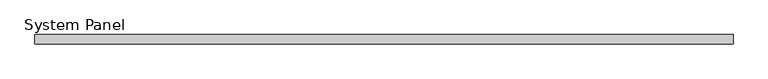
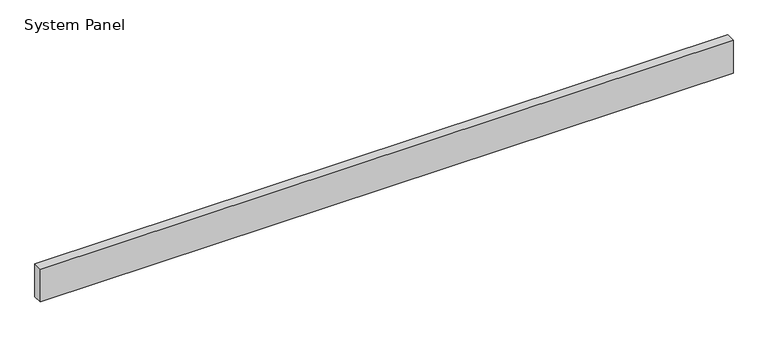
"""IFC4 building model written with IfcOpenShell, lengths in millimetres: plate geometry, System Panel : Inspire 80mm Horizontal - Plain RHEA-PIR."""

from ifc_helpers import new_model, si_unit, origin, origin_with_axes, place, context, project, spatial, polyline, outline, extrude, source, transform, mapped, element, save


def system_panel_b5fc7392(model_context):
    return source(origin(), model_context, "Body", "SweptSolid", [
        extrude(outline(polyline([(2995.0, 0.0), (-2995.0, 0.0), (-2995.0, 80.0), (2995.0, 80.0), (2995.0, 0.0)])), origin_with_axes(), (0.0, 0.0, 1.0), 300.0),
    ])


if __name__ == "__main__":
    model = new_model("IFC4")
    model_context = context("Model", 3, world=origin())
    ifc_project = project(units=[si_unit("LENGTHUNIT", "METRE", prefix="MILLI")], contexts=[model_context])
    site = spatial("IfcSite", under=ifc_project)
    building = spatial("IfcBuilding", under=site)
    placement = place(None, origin())
    system_panel_shape = system_panel_b5fc7392(model_context)
    element("IfcPlate", 1, ObjectType="System Panel : Inspire 80mm Horizontal - Plain RHEA-PIR", at=placement, inside=building, context=model_context, shape_type="MappedRepresentation", body=[
        mapped(system_panel_shape, transform((0.0, 0.0, 0.0), x_axis=(1.0, 0.0, 0.0), y_axis=(0.0, 1.0, 0.0), z_axis=(0.0, 0.0, 1.0))),
    ])
    save(model, "model.ifc")
